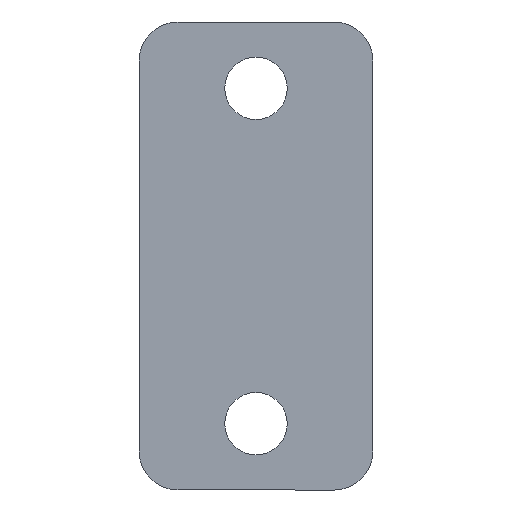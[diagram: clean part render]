
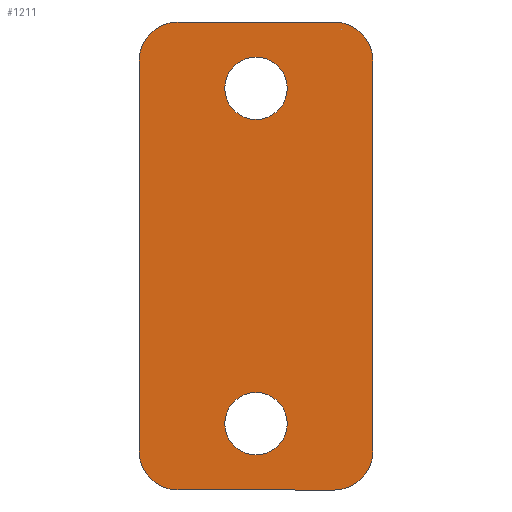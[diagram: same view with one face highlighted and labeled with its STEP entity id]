
A CAD part, front view. The second image highlights one B-rep face of the part: STEP entity #1211.
In plain terms, the highlighted planar face has unit normal (0, -1, 0).
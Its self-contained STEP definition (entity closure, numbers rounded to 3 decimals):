
#6 = EDGE_CURVE ( 'NONE', #1179, #1178, #470, .T. ) ;
#466 = DIRECTION ( 'NONE',  ( 0., 0., 1. ) ) ;
#467 = DIRECTION ( 'NONE',  ( 0., 1., 0. ) ) ;
#468 = CARTESIAN_POINT ( 'NONE',  ( 0., 0., -8.6 ) ) ;
#469 = AXIS2_PLACEMENT_3D ( 'NONE', #468, #467, #466 ) ;
#470 = CIRCLE ( 'NONE', #469, 1.6 ) ;
#1148 = VERTEX_POINT ( 'NONE', #1375 ) ;
#1150 = EDGE_CURVE ( 'NONE', #1148, #1151, #1374, .T. ) ;
#1151 = VERTEX_POINT ( 'NONE', #1370 ) ;
#1161 = EDGE_CURVE ( 'NONE', #1178, #1179, #1419, .T. ) ;
#1166 = EDGE_CURVE ( 'NONE', #1296, #1167, #1404, .T. ) ;
#1167 = VERTEX_POINT ( 'NONE', #1399 ) ;
#1178 = VERTEX_POINT ( 'NONE', #1442 ) ;
#1179 = VERTEX_POINT ( 'NONE', #1441 ) ;
#1189 = VERTEX_POINT ( 'NONE', #1432 ) ;
#1204 = EDGE_CURVE ( 'NONE', #1151, #1189, #1465, .T. ) ;
#1208 = EDGE_LOOP ( 'NONE', ( #1212, #1210, #1344, #1283, #1285, #1288, #1347, #1348 ) ) ;
#1210 = ORIENTED_EDGE ( 'NONE', *, *, #1256, .F. ) ;
#1211 = ADVANCED_FACE ( 'NONE', ( #1522, #1521, #1520 ), #1519, .F. ) ;
#1212 = ORIENTED_EDGE ( 'NONE', *, *, #1261, .F. ) ;
#1254 = VERTEX_POINT ( 'NONE', #1572 ) ;
#1256 = EDGE_CURVE ( 'NONE', #1254, #1303, #1571, .T. ) ;
#1261 = EDGE_CURVE ( 'NONE', #1303, #1148, #1624, .T. ) ;
#1282 = EDGE_CURVE ( 'NONE', #1254, #1346, #1640, .T. ) ;
#1283 = ORIENTED_EDGE ( 'NONE', *, *, #1284, .T. ) ;
#1284 = EDGE_CURVE ( 'NONE', #1346, #1345, #1635, .T. ) ;
#1285 = ORIENTED_EDGE ( 'NONE', *, *, #1286, .T. ) ;
#1286 = EDGE_CURVE ( 'NONE', #1345, #1287, #1631, .T. ) ;
#1287 = VERTEX_POINT ( 'NONE', #1626 ) ;
#1288 = ORIENTED_EDGE ( 'NONE', *, *, #1289, .F. ) ;
#1289 = EDGE_CURVE ( 'NONE', #1189, #1287, #1688, .T. ) ;
#1296 = VERTEX_POINT ( 'NONE', #1671 ) ;
#1303 = VERTEX_POINT ( 'NONE', #1659 ) ;
#1344 = ORIENTED_EDGE ( 'NONE', *, *, #1282, .T. ) ;
#1345 = VERTEX_POINT ( 'NONE', #1779 ) ;
#1346 = VERTEX_POINT ( 'NONE', #1778 ) ;
#1347 = ORIENTED_EDGE ( 'NONE', *, *, #1204, .F. ) ;
#1348 = ORIENTED_EDGE ( 'NONE', *, *, #1150, .F. ) ;
#1349 = EDGE_LOOP ( 'NONE', ( #1350, #1351 ) ) ;
#1350 = ORIENTED_EDGE ( 'NONE', *, *, #6, .T. ) ;
#1351 = ORIENTED_EDGE ( 'NONE', *, *, #1161, .T. ) ;
#1352 = EDGE_LOOP ( 'NONE', ( #1353, #1356 ) ) ;
#1353 = ORIENTED_EDGE ( 'NONE', *, *, #1354, .F. ) ;
#1354 = EDGE_CURVE ( 'NONE', #1167, #1296, #1777, .T. ) ;
#1356 = ORIENTED_EDGE ( 'NONE', *, *, #1166, .F. ) ;
#1370 = CARTESIAN_POINT ( 'NONE',  ( -4., 0., -12. ) ) ;
#1371 = DIRECTION ( 'NONE',  ( -1., 0., 0. ) ) ;
#1372 = VECTOR ( 'NONE', #1371, 1000. ) ;
#1373 = CARTESIAN_POINT ( 'NONE',  ( -4., 0., -12. ) ) ;
#1374 = LINE ( 'NONE', #1373, #1372 ) ;
#1375 = CARTESIAN_POINT ( 'NONE',  ( 4., 0., -12. ) ) ;
#1399 = CARTESIAN_POINT ( 'NONE',  ( 0., 0., 10.2 ) ) ;
#1400 = DIRECTION ( 'NONE',  ( 0., 0., -1. ) ) ;
#1401 = DIRECTION ( 'NONE',  ( 0., -1., 0. ) ) ;
#1402 = CARTESIAN_POINT ( 'NONE',  ( 0., 0., 8.6 ) ) ;
#1403 = AXIS2_PLACEMENT_3D ( 'NONE', #1402, #1401, #1400 ) ;
#1404 = CIRCLE ( 'NONE', #1403, 1.6 ) ;
#1415 = DIRECTION ( 'NONE',  ( 0., 0., 1. ) ) ;
#1416 = DIRECTION ( 'NONE',  ( 0., 1., 0. ) ) ;
#1417 = CARTESIAN_POINT ( 'NONE',  ( 0., 0., -8.6 ) ) ;
#1418 = AXIS2_PLACEMENT_3D ( 'NONE', #1417, #1416, #1415 ) ;
#1419 = CIRCLE ( 'NONE', #1418, 1.6 ) ;
#1432 = CARTESIAN_POINT ( 'NONE',  ( -6., 0., -10. ) ) ;
#1441 = CARTESIAN_POINT ( 'NONE',  ( 0., 0., -10.2 ) ) ;
#1442 = CARTESIAN_POINT ( 'NONE',  ( 0., 0., -7. ) ) ;
#1464 = CARTESIAN_POINT ( 'NONE',  ( -4., 0., -10. ) ) ;
#1465 = CIRCLE ( 'NONE', #1530, 2. ) ;
#1515 = DIRECTION ( 'NONE',  ( 0., 0., 1. ) ) ;
#1516 = DIRECTION ( 'NONE',  ( 0., 1., 0. ) ) ;
#1517 = CARTESIAN_POINT ( 'NONE',  ( 4., 0., -10. ) ) ;
#1518 = AXIS2_PLACEMENT_3D ( 'NONE', #1517, #1516, #1515 ) ;
#1519 = PLANE ( 'NONE',  #1518 ) ;
#1520 = FACE_BOUND ( 'NONE', #1352, .T. ) ;
#1521 = FACE_BOUND ( 'NONE', #1349, .T. ) ;
#1522 = FACE_OUTER_BOUND ( 'NONE', #1208, .T. ) ;
#1528 = DIRECTION ( 'NONE',  ( 0., 0., 1. ) ) ;
#1529 = DIRECTION ( 'NONE',  ( 0., 1., 0. ) ) ;
#1530 = AXIS2_PLACEMENT_3D ( 'NONE', #1464, #1529, #1528 ) ;
#1568 = DIRECTION ( 'NONE',  ( 0., 0., -1. ) ) ;
#1569 = VECTOR ( 'NONE', #1568, 1000. ) ;
#1570 = CARTESIAN_POINT ( 'NONE',  ( 6., 0., 0. ) ) ;
#1571 = LINE ( 'NONE', #1570, #1569 ) ;
#1572 = CARTESIAN_POINT ( 'NONE',  ( 6., 0., 10. ) ) ;
#1616 = DIRECTION ( 'NONE',  ( 0., 0., 1. ) ) ;
#1617 = DIRECTION ( 'NONE',  ( 0., 1., 0. ) ) ;
#1618 = CARTESIAN_POINT ( 'NONE',  ( 4., 0., -10. ) ) ;
#1619 = AXIS2_PLACEMENT_3D ( 'NONE', #1618, #1617, #1616 ) ;
#1624 = CIRCLE ( 'NONE', #1619, 2. ) ;
#1626 = CARTESIAN_POINT ( 'NONE',  ( -6., 0., 10. ) ) ;
#1627 = DIRECTION ( 'NONE',  ( 0., 0., -1. ) ) ;
#1628 = DIRECTION ( 'NONE',  ( 0., -1., 0. ) ) ;
#1629 = CARTESIAN_POINT ( 'NONE',  ( -4., 0., 10. ) ) ;
#1630 = AXIS2_PLACEMENT_3D ( 'NONE', #1629, #1628, #1627 ) ;
#1631 = CIRCLE ( 'NONE', #1630, 2. ) ;
#1632 = DIRECTION ( 'NONE',  ( -1., 0., 0. ) ) ;
#1633 = VECTOR ( 'NONE', #1632, 1000. ) ;
#1634 = CARTESIAN_POINT ( 'NONE',  ( -4., 0., 12. ) ) ;
#1635 = LINE ( 'NONE', #1634, #1633 ) ;
#1636 = DIRECTION ( 'NONE',  ( 0., 0., -1. ) ) ;
#1637 = DIRECTION ( 'NONE',  ( 0., -1., 0. ) ) ;
#1638 = CARTESIAN_POINT ( 'NONE',  ( 4., 0., 10. ) ) ;
#1639 = AXIS2_PLACEMENT_3D ( 'NONE', #1638, #1637, #1636 ) ;
#1640 = CIRCLE ( 'NONE', #1639, 2. ) ;
#1659 = CARTESIAN_POINT ( 'NONE',  ( 6., 0., -10. ) ) ;
#1671 = CARTESIAN_POINT ( 'NONE',  ( 0., 0., 7. ) ) ;
#1685 = DIRECTION ( 'NONE',  ( 0., 0., 1. ) ) ;
#1686 = VECTOR ( 'NONE', #1685, 1000. ) ;
#1687 = CARTESIAN_POINT ( 'NONE',  ( -6., 0., 0. ) ) ;
#1688 = LINE ( 'NONE', #1687, #1686 ) ;
#1773 = DIRECTION ( 'NONE',  ( 0., 0., -1. ) ) ;
#1774 = DIRECTION ( 'NONE',  ( 0., -1., 0. ) ) ;
#1775 = CARTESIAN_POINT ( 'NONE',  ( 0., 0., 8.6 ) ) ;
#1776 = AXIS2_PLACEMENT_3D ( 'NONE', #1775, #1774, #1773 ) ;
#1777 = CIRCLE ( 'NONE', #1776, 1.6 ) ;
#1778 = CARTESIAN_POINT ( 'NONE',  ( 4., 0., 12. ) ) ;
#1779 = CARTESIAN_POINT ( 'NONE',  ( -4., 0., 12. ) ) ;
